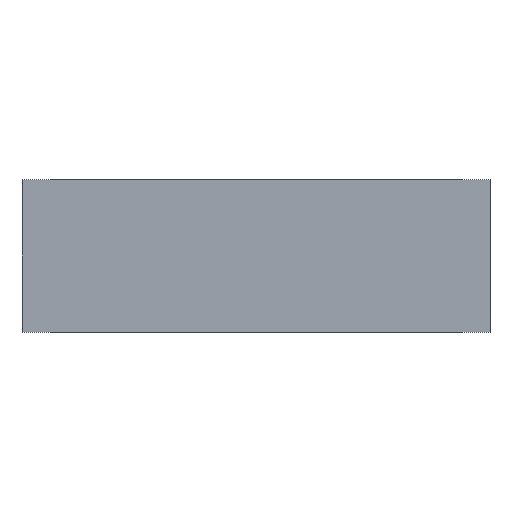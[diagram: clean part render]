
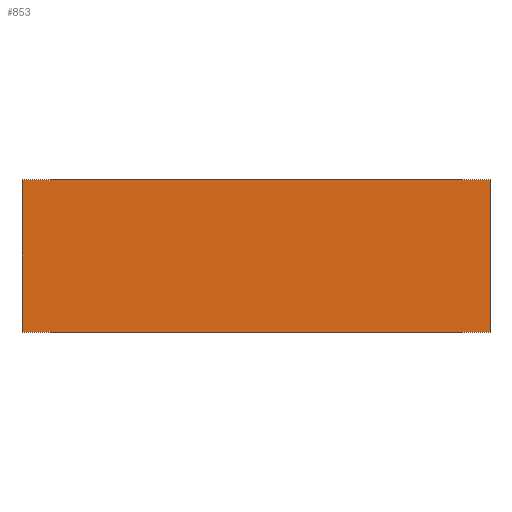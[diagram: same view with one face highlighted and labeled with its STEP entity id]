
A CAD part, front view. The second image highlights one B-rep face of the part: STEP entity #853.
In plain terms, the highlighted planar face has unit normal (0, -1, 0).
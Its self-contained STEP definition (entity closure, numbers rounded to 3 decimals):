
#60 = FACE_OUTER_BOUND ( 'NONE', #831, .T. ) ;
#75 = LINE ( 'NONE', #596, #160 ) ;
#125 = VECTOR ( 'NONE', #538, 1000. ) ;
#133 = LINE ( 'NONE', #542, #125 ) ;
#141 = VECTOR ( 'NONE', #563, 1000. ) ;
#142 = LINE ( 'NONE', #565, #141 ) ;
#153 = VECTOR ( 'NONE', #580, 1000. ) ;
#154 = LINE ( 'NONE', #581, #153 ) ;
#160 = VECTOR ( 'NONE', #588, 1000. ) ;
#210 = VERTEX_POINT ( 'NONE', #493 ) ;
#211 = VERTEX_POINT ( 'NONE', #492 ) ;
#253 = PLANE ( 'NONE',  #973 ) ;
#380 = CARTESIAN_POINT ( 'NONE',  ( 100., 0., 0. ) ) ;
#383 = DIRECTION ( 'NONE',  ( -1., 0., 0. ) ) ;
#384 = DIRECTION ( 'NONE',  ( 0., 1., 0. ) ) ;
#396 = CARTESIAN_POINT ( 'NONE',  ( -100., 0., 65. ) ) ;
#414 = EDGE_CURVE ( 'NONE', #211, #210, #75, .T. ) ;
#417 = EDGE_CURVE ( 'NONE', #617, #628, #154, .T. ) ;
#423 = EDGE_CURVE ( 'NONE', #210, #628, #142, .T. ) ;
#432 = EDGE_CURVE ( 'NONE', #211, #617, #133, .T. ) ;
#459 = CARTESIAN_POINT ( 'NONE',  ( -100., 0., 0. ) ) ;
#492 = CARTESIAN_POINT ( 'NONE',  ( -100., 0., 65. ) ) ;
#493 = CARTESIAN_POINT ( 'NONE',  ( 100., 0., 65. ) ) ;
#538 = DIRECTION ( 'NONE',  ( 0., 0., -1. ) ) ;
#542 = CARTESIAN_POINT ( 'NONE',  ( -100., 0., 65. ) ) ;
#563 = DIRECTION ( 'NONE',  ( 0., 0., -1. ) ) ;
#565 = CARTESIAN_POINT ( 'NONE',  ( 100., 0., 65. ) ) ;
#580 = DIRECTION ( 'NONE',  ( 1., 0., 0. ) ) ;
#581 = CARTESIAN_POINT ( 'NONE',  ( -100., 0., 0. ) ) ;
#588 = DIRECTION ( 'NONE',  ( 1., 0., 0. ) ) ;
#596 = CARTESIAN_POINT ( 'NONE',  ( -100., 0., 65. ) ) ;
#617 = VERTEX_POINT ( 'NONE', #459 ) ;
#628 = VERTEX_POINT ( 'NONE', #380 ) ;
#758 = ORIENTED_EDGE ( 'NONE', *, *, #432, .T. ) ;
#759 = ORIENTED_EDGE ( 'NONE', *, *, #414, .F. ) ;
#760 = ORIENTED_EDGE ( 'NONE', *, *, #423, .F. ) ;
#761 = ORIENTED_EDGE ( 'NONE', *, *, #417, .T. ) ;
#831 = EDGE_LOOP ( 'NONE', ( #761, #760, #759, #758 ) ) ;
#853 = ADVANCED_FACE ( 'NONE', ( #60 ), #253, .F. ) ;
#973 = AXIS2_PLACEMENT_3D ( 'NONE', #396, #384, #383 ) ;
